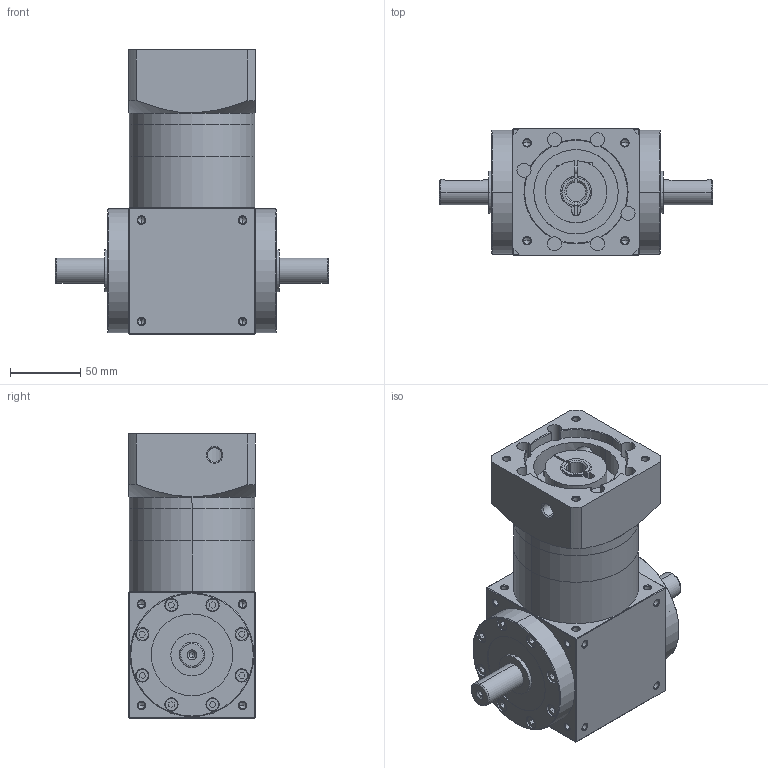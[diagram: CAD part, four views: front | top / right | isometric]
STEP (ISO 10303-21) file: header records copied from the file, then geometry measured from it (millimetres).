
FILE_DESCRIPTION (( 'STEP AP203' ), '1' );
FILE_NAME ('AT090-L2-14-73-98.44M6.STEP', '2025-12-05T01:42:51', ( 'Windows User' ), ( 'P R C' ), 'SwSTEP 2.0', 'SolidWorks 2016', '' );
FILE_SCHEMA (( 'CONFIG_CONTROL_DESIGN' ));
Length unit declared in the file: millimetre
Products named in the file (7): AT90单级齿圈; 输入胀套-22; AT90输入法兰-E-73-M6-F69.6; 输入轴套-19-14; AT090-L2-14-73-98.44M6; AT90-转角箱体-双轴-输出; AT90蛌倰怀堤楊擘
Assembly tree (6 placements, depth 2):
  AT090-L2-14-73-98.44M6
    AT90-转角箱体-双轴-输出
    AT90蛌倰怀堤楊擘
    AT90单级齿圈
    输入胀套-22
    AT90输入法兰-E-73-M6-F69.6
    输入轴套-19-14
Bounding box: 194 x 90 x 202 mm (x, y, z)
Volume: 1220284 mm3; surface area: 206806.5 mm2
Topology: 6 solids, 18 shells, 1467 faces, 3732 edges, 2349 vertices
Faces by surface type: plane 722, cylinder 321, cone 242, bspline 182
Entity records: 52002 total; most frequent: CARTESIAN_POINT 17566, ORIENTED_EDGE 7272, DIRECTION 6363, EDGE_CURVE 3636, VERTEX_POINT 2349, VECTOR 2343, LINE 2343, AXIS2_PLACEMENT_3D 2010
